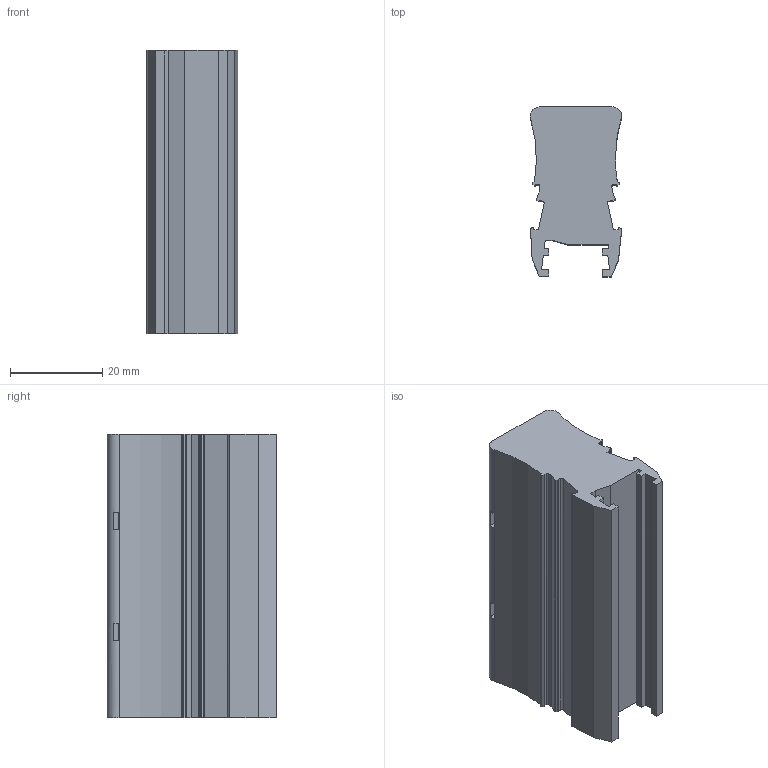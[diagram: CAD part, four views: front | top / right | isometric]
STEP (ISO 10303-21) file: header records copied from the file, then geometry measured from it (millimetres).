
FILE_DESCRIPTION(('SolidDesigner STEP Export'),'2;1');
FILE_NAME('3209785_H-SP_2.5_12.stp','2009-02-16T14:14:28',(''),(''),'CoCreate Modeling STEP processor for AP214 (Solid Model)','CoCreate Modeling 16.00A 16-Aug-2008 (C) Parametric Technology GmbH','');
FILE_SCHEMA(('AUTOMOTIVE_DESIGN { 1 0 10303 214 1 1 1 1 }'));
Length unit declared in the file: millimetre
Products named in the file (2): 3209785_H-SP_2.5_12
Assembly tree (1 placements, depth 2):
  3209785_H-SP_2.5_12
    3209785_H-SP_2.5_12
Bounding box: 19.89 x 36.84 x 61.6 mm (x, y, z)
Volume: 33104.1 mm3; surface area: 10436.5 mm2
Topology: 1 solids, 1 shells, 111 faces, 318 edges, 213 vertices
Faces by surface type: plane 72, cylinder 36, extrusion 3
Entity records: 4428 total; most frequent: CARTESIAN_POINT 675, ORIENTED_EDGE 636, DIRECTION 539, EDGE_CURVE 318, VECTOR 227, LINE 224, VERTEX_POINT 213, AXIS2_PLACEMENT_3D 156
